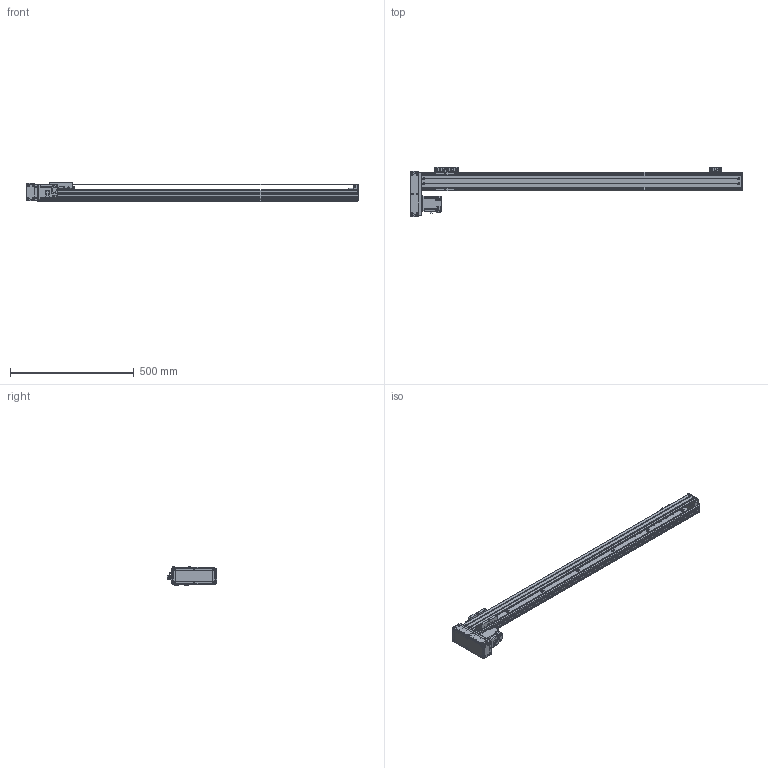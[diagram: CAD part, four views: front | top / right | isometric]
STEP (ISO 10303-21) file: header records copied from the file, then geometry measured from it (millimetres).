
FILE_DESCRIPTION(/* description */ (''),/* implementation_level */ '2;1');
FILE_NAME(/* name */ '\\192.168.0.160\disk1\HAN SHIN Master\B-설계부문\C-표준\B-2024년\BC02-표준도면\+로봇 개선표준도면\홈페이지 표준 도면\홈페이지 최종 작업 폴더\3D\HR\HR75\HR75병렬\우병렬\HR75-R20-N1B-1100-L10.stp',/* time_stamp */ '2025-01-18T16:38:44+09:00',/* author */ ('user'),/* organization */ (''),/* preprocessor_version */ 'ST-DEVELOPER v18.1',/* originating_system */ 'Autodesk Inventor 2022',/* authorisation */ '');
FILE_SCHEMA (('CONFIG_CONTROL_DESIGN'));
Products named in the file (23): HG75-L20-N1B-0500-R10 - 간소화; BASE; HR75 FRONT BLOCK; HR75 REAR COVER-TENTION; HR75 TENSION REAR BLOCK; HG3UPCOV001; H 15F_BLOCK; HG90STOPPER - 20L; HG90STOPPER - 27L; MOTOR PLATE-200W(MITSUBISHI); 화살표; hg-kr23_; M-5HL-4; HR75 W TABLE; LMKE1520 NUT; HR75-LR-BELT COVER(200W); HR75-BELT COVER-COVER2; HR75-BELT COVER-COVER; HR65-BELT COVER-COVER3; HC75-LR-MOTOR PLATE(200W)-사출_MIR; HR65,75 SENSOR DOG; EE_SX674A; SENSOR BRK(EE-SX674A)
Assembly tree (28 placements, depth 2):
  HG75-L20-N1B-0500-R10 - 간소화
    BASE
    HR75 FRONT BLOCK
    HR75 REAR COVER-TENTION
    HR75 TENSION REAR BLOCK
    HG3UPCOV001
    H 15F_BLOCK
    HG90STOPPER - 20L
    HG90STOPPER - 27L
    MOTOR PLATE-200W(MITSUBISHI)
    화살표  x2
    hg-kr23_
    M-5HL-4
    HR75 W TABLE
    LMKE1520 NUT
    SENSOR BRK(EE-SX674A)  x3
    EE_SX674A  x3
    HR75-LR-BELT COVER(200W)
    HR75-BELT COVER-COVER2
    HR75-BELT COVER-COVER
    HR65-BELT COVER-COVER3  x2
    HC75-LR-MOTOR PLATE(200W)-사출_MIR
    HR65,75 SENSOR DOG
Bounding box: 1339 x 199 x 73 mm (x, y, z)
Volume: 2067216.7 mm3; surface area: 948076.7 mm2
Topology: 28 solids, 28 shells, 2944 faces, 8111 edges, 5361 vertices
Faces by surface type: plane 2183, cylinder 646, cone 107, sphere 8
Full cylindrical faces by diameter (mm): 1.8 x1, 2 x4, 2.013 x2, 2.459 x16, 2.5 x2, 3 x8, 3.242 x66, 3.4 x20, 3.5 x6, 4.134 x48, 4.5 x22, 4.917 x5, 5 x31, 5.5 x32, 5.6 x8, 5.8 x4, 5.9 x8, 6 x4, 6.5 x1, 7 x1, 8 x1, 9.5 x28, 14 x1, 15 x3, 17 x1, 20 x1, 25 x2, 28 x1, 32 x2, 33.7 x1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
Entity records: 90690 total; most frequent: CARTESIAN_POINT 16072, ORIENTED_EDGE 15106, DIRECTION 14388, EDGE_CURVE 7553, LINE 6194, VECTOR 6194, VERTEX_POINT 5029, AXIS2_PLACEMENT_3D 4097
